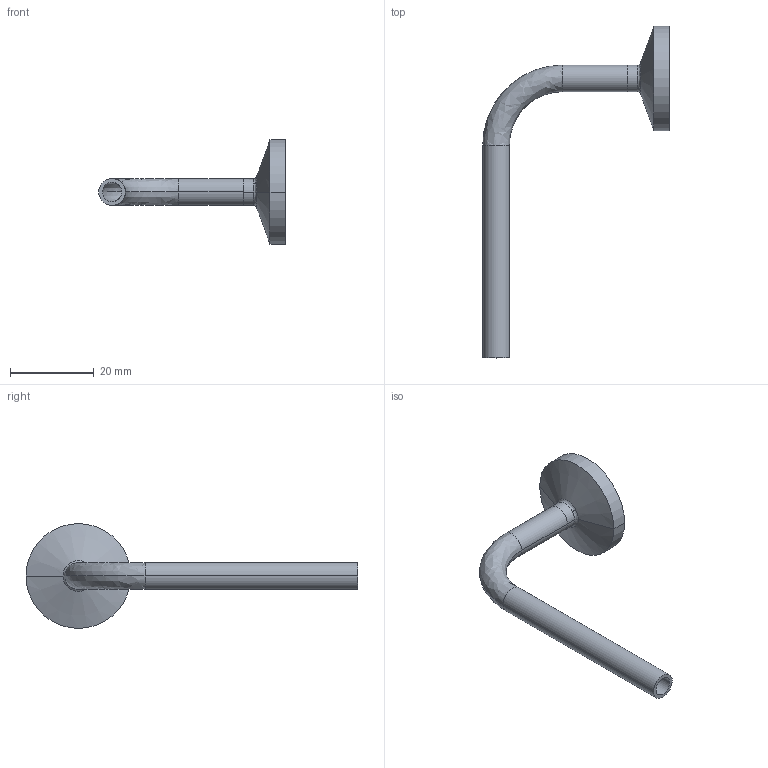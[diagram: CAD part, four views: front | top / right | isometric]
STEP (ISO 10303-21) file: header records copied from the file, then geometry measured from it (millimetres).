
FILE_DESCRIPTION (( 'STEP AP214' ), '1' );
FILE_NAME ('TE2C6L.25-...STEP', '2016-05-22T09:28:20', ( 'eran' ), ( '' ), 'SwSTEP 2.0', 'SolidWorks 2016', '' );
FILE_SCHEMA (( 'AUTOMOTIVE_DESIGN' ));
Length unit declared in the file: millimetre
Products named in the file (1): TE2C6L.25-..
Bounding box: 44.48 x 79.2 x 24.99 mm (x, y, z)
Volume: 3426.7 mm3; surface area: 4757.6 mm2
Topology: 2 solids, 2 shells, 37 faces, 86 edges, 54 vertices
Faces by surface type: cylinder 16, bspline 12, plane 5, cone 4
Entity records: 1265 total; most frequent: CARTESIAN_POINT 370, DIRECTION 196, ORIENTED_EDGE 172, AXIS2_PLACEMENT_3D 88, EDGE_CURVE 86, CIRCLE 62, VERTEX_POINT 54, EDGE_LOOP 42
